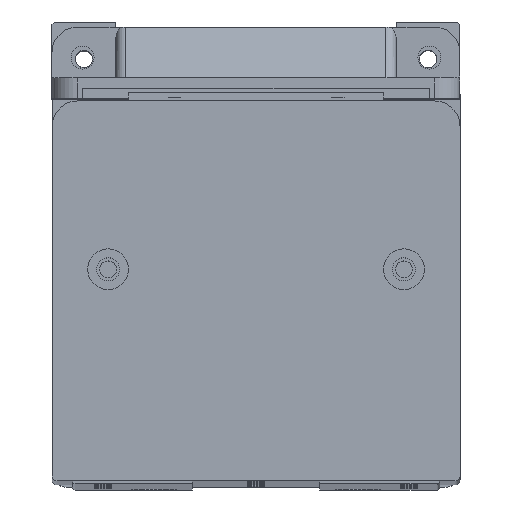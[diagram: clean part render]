
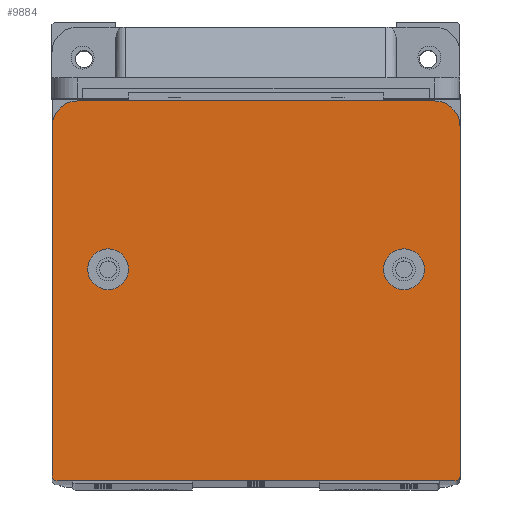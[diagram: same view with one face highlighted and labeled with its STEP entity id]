
A CAD part, top view. The second image highlights one B-rep face of the part: STEP entity #9884.
In plain terms, the highlighted planar face has unit normal (0, 0, 1).
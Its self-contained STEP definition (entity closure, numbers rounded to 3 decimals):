
#40 = DIRECTION ( 'NONE',  ( 0., 0., 1. ) ) ;
#181 = CARTESIAN_POINT ( 'NONE',  ( 7., 41.5, 10. ) ) ;
#233 = DIRECTION ( 'NONE',  ( 1., 0., 0. ) ) ;
#301 = CARTESIAN_POINT ( 'NONE',  ( 0., 0., 10. ) ) ;
#708 = CARTESIAN_POINT ( 'NONE',  ( 5., 74.5, 10. ) ) ;
#732 = CARTESIAN_POINT ( 'NONE',  ( 80., 69.5, 10. ) ) ;
#818 = EDGE_CURVE ( 'NONE', #3360, #22648, #16425, .T. ) ;
#1196 = DIRECTION ( 'NONE',  ( 0., 0., 1. ) ) ;
#1201 = DIRECTION ( 'NONE',  ( 1., 0., 0. ) ) ;
#1277 = AXIS2_PLACEMENT_3D ( 'NONE', #10969, #18866, #1504 ) ;
#1504 = DIRECTION ( 'NONE',  ( -1., 0., 0. ) ) ;
#1512 = VECTOR ( 'NONE', #8103, 1000. ) ;
#1804 = VERTEX_POINT ( 'NONE', #13427 ) ;
#1866 = AXIS2_PLACEMENT_3D ( 'NONE', #13417, #13334, #7751 ) ;
#2022 = AXIS2_PLACEMENT_3D ( 'NONE', #16374, #20252, #4970 ) ;
#3093 = DIRECTION ( 'NONE',  ( 0., -1., 0. ) ) ;
#3360 = VERTEX_POINT ( 'NONE', #9474 ) ;
#3550 = ORIENTED_EDGE ( 'NONE', *, *, #9615, .T. ) ;
#3751 = DIRECTION ( 'NONE',  ( -1., 0., 0. ) ) ;
#3937 = CARTESIAN_POINT ( 'NONE',  ( 80., 1., 10. ) ) ;
#3943 = AXIS2_PLACEMENT_3D ( 'NONE', #16887, #7421, #3751 ) ;
#3954 = ORIENTED_EDGE ( 'NONE', *, *, #14803, .F. ) ;
#3966 = VERTEX_POINT ( 'NONE', #5202 ) ;
#4970 = DIRECTION ( 'NONE',  ( -1., 0., 0. ) ) ;
#5202 = CARTESIAN_POINT ( 'NONE',  ( 65., 41.5, 10. ) ) ;
#5522 = ORIENTED_EDGE ( 'NONE', *, *, #24005, .F. ) ;
#5654 = CARTESIAN_POINT ( 'NONE',  ( 73., 41.5, 10. ) ) ;
#5751 = CIRCLE ( 'NONE', #1277, 1. ) ;
#5875 = FACE_BOUND ( 'NONE', #24371, .T. ) ;
#5965 = CARTESIAN_POINT ( 'NONE',  ( 15., 41.5, 10. ) ) ;
#6045 = LINE ( 'NONE', #301, #24183 ) ;
#6359 = CARTESIAN_POINT ( 'NONE',  ( 0., 74.5, 10. ) ) ;
#6857 = CIRCLE ( 'NONE', #8000, 5. ) ;
#7421 = DIRECTION ( 'NONE',  ( 0., 0., 1. ) ) ;
#7751 = DIRECTION ( 'NONE',  ( -1., 0., 0. ) ) ;
#8000 = AXIS2_PLACEMENT_3D ( 'NONE', #20063, #1196, #10675 ) ;
#8024 = CARTESIAN_POINT ( 'NONE',  ( 79., 0., 10. ) ) ;
#8103 = DIRECTION ( 'NONE',  ( -1., 0., 0. ) ) ;
#8273 = VERTEX_POINT ( 'NONE', #708 ) ;
#8466 = AXIS2_PLACEMENT_3D ( 'NONE', #14660, #9067, #8985 ) ;
#8715 = ORIENTED_EDGE ( 'NONE', *, *, #19079, .F. ) ;
#8840 = FACE_BOUND ( 'NONE', #19412, .T. ) ;
#8985 = DIRECTION ( 'NONE',  ( 1., 0., 0. ) ) ;
#9033 = EDGE_CURVE ( 'NONE', #9619, #8273, #16703, .T. ) ;
#9067 = DIRECTION ( 'NONE',  ( 0., 0., 1. ) ) ;
#9324 = PLANE ( 'NONE',  #1866 ) ;
#9474 = CARTESIAN_POINT ( 'NONE',  ( 0., 1., 10. ) ) ;
#9527 = VERTEX_POINT ( 'NONE', #181 ) ;
#9615 = EDGE_CURVE ( 'NONE', #18551, #15932, #23128, .T. ) ;
#9619 = VERTEX_POINT ( 'NONE', #11805 ) ;
#9884 = ADVANCED_FACE ( 'NONE', ( #5875, #8840, #19527 ), #9324, .F. ) ;
#9902 = CARTESIAN_POINT ( 'NONE',  ( 80., 0., 10. ) ) ;
#9938 = EDGE_CURVE ( 'NONE', #15932, #9619, #20733, .T. ) ;
#10005 = VERTEX_POINT ( 'NONE', #5965 ) ;
#10675 = DIRECTION ( 'NONE',  ( -1., 0., 0. ) ) ;
#10690 = DIRECTION ( 'NONE',  ( 1., 0., 0. ) ) ;
#10969 = CARTESIAN_POINT ( 'NONE',  ( 79., 1., 10. ) ) ;
#11570 = DIRECTION ( 'NONE',  ( 0., 1., 0. ) ) ;
#11805 = CARTESIAN_POINT ( 'NONE',  ( 75., 74.5, 10. ) ) ;
#11923 = VERTEX_POINT ( 'NONE', #5654 ) ;
#12325 = ORIENTED_EDGE ( 'NONE', *, *, #21407, .T. ) ;
#12354 = DIRECTION ( 'NONE',  ( 0., 0., 1. ) ) ;
#12442 = AXIS2_PLACEMENT_3D ( 'NONE', #12520, #12354, #1201 ) ;
#12520 = CARTESIAN_POINT ( 'NONE',  ( 69., 41.5, 10. ) ) ;
#12622 = EDGE_CURVE ( 'NONE', #3966, #11923, #21183, .T. ) ;
#12847 = CARTESIAN_POINT ( 'NONE',  ( 1., 0., 10. ) ) ;
#13334 = DIRECTION ( 'NONE',  ( 0., 0., -1. ) ) ;
#13417 = CARTESIAN_POINT ( 'NONE',  ( 0., 0., 10. ) ) ;
#13427 = CARTESIAN_POINT ( 'NONE',  ( 0., 69.5, 10. ) ) ;
#13903 = VECTOR ( 'NONE', #10690, 1000. ) ;
#14656 = ORIENTED_EDGE ( 'NONE', *, *, #9033, .T. ) ;
#14660 = CARTESIAN_POINT ( 'NONE',  ( 11., 41.5, 10. ) ) ;
#14803 = EDGE_CURVE ( 'NONE', #11923, #3966, #18438, .T. ) ;
#15796 = CARTESIAN_POINT ( 'NONE',  ( 11., 41.5, 10. ) ) ;
#15932 = VERTEX_POINT ( 'NONE', #732 ) ;
#16196 = CARTESIAN_POINT ( 'NONE',  ( 0., 0., 10. ) ) ;
#16374 = CARTESIAN_POINT ( 'NONE',  ( 1., 1., 10. ) ) ;
#16425 = CIRCLE ( 'NONE', #2022, 1. ) ;
#16499 = AXIS2_PLACEMENT_3D ( 'NONE', #15796, #23003, #233 ) ;
#16583 = EDGE_CURVE ( 'NONE', #8273, #1804, #6857, .T. ) ;
#16649 = ORIENTED_EDGE ( 'NONE', *, *, #9938, .T. ) ;
#16703 = LINE ( 'NONE', #6359, #1512 ) ;
#16887 = CARTESIAN_POINT ( 'NONE',  ( 75., 69.5, 10. ) ) ;
#17346 = CARTESIAN_POINT ( 'NONE',  ( 69., 41.5, 10. ) ) ;
#17640 = ORIENTED_EDGE ( 'NONE', *, *, #16583, .T. ) ;
#18113 = VERTEX_POINT ( 'NONE', #8024 ) ;
#18228 = ORIENTED_EDGE ( 'NONE', *, *, #22036, .T. ) ;
#18438 = CIRCLE ( 'NONE', #12442, 4. ) ;
#18551 = VERTEX_POINT ( 'NONE', #3937 ) ;
#18866 = DIRECTION ( 'NONE',  ( 0., 0., 1. ) ) ;
#18939 = LINE ( 'NONE', #16196, #13903 ) ;
#19079 = EDGE_CURVE ( 'NONE', #10005, #9527, #23420, .T. ) ;
#19174 = ORIENTED_EDGE ( 'NONE', *, *, #818, .T. ) ;
#19412 = EDGE_LOOP ( 'NONE', ( #8715, #5522 ) ) ;
#19527 = FACE_OUTER_BOUND ( 'NONE', #23216, .T. ) ;
#19794 = EDGE_CURVE ( 'NONE', #22648, #18113, #18939, .T. ) ;
#20063 = CARTESIAN_POINT ( 'NONE',  ( 5., 69.5, 10. ) ) ;
#20252 = DIRECTION ( 'NONE',  ( 0., 0., 1. ) ) ;
#20512 = AXIS2_PLACEMENT_3D ( 'NONE', #17346, #40, #21132 ) ;
#20733 = CIRCLE ( 'NONE', #3943, 5. ) ;
#21132 = DIRECTION ( 'NONE',  ( 1., 0., 0. ) ) ;
#21183 = CIRCLE ( 'NONE', #20512, 4. ) ;
#21321 = VECTOR ( 'NONE', #11570, 1000. ) ;
#21407 = EDGE_CURVE ( 'NONE', #1804, #3360, #6045, .T. ) ;
#22033 = CIRCLE ( 'NONE', #8466, 4. ) ;
#22036 = EDGE_CURVE ( 'NONE', #18113, #18551, #5751, .T. ) ;
#22648 = VERTEX_POINT ( 'NONE', #12847 ) ;
#23003 = DIRECTION ( 'NONE',  ( 0., 0., 1. ) ) ;
#23128 = LINE ( 'NONE', #9902, #21321 ) ;
#23216 = EDGE_LOOP ( 'NONE', ( #12325, #19174, #24465, #18228, #3550, #16649, #14656, #17640 ) ) ;
#23420 = CIRCLE ( 'NONE', #16499, 4. ) ;
#23445 = ORIENTED_EDGE ( 'NONE', *, *, #12622, .F. ) ;
#24005 = EDGE_CURVE ( 'NONE', #9527, #10005, #22033, .T. ) ;
#24183 = VECTOR ( 'NONE', #3093, 1000. ) ;
#24371 = EDGE_LOOP ( 'NONE', ( #3954, #23445 ) ) ;
#24465 = ORIENTED_EDGE ( 'NONE', *, *, #19794, .T. ) ;
